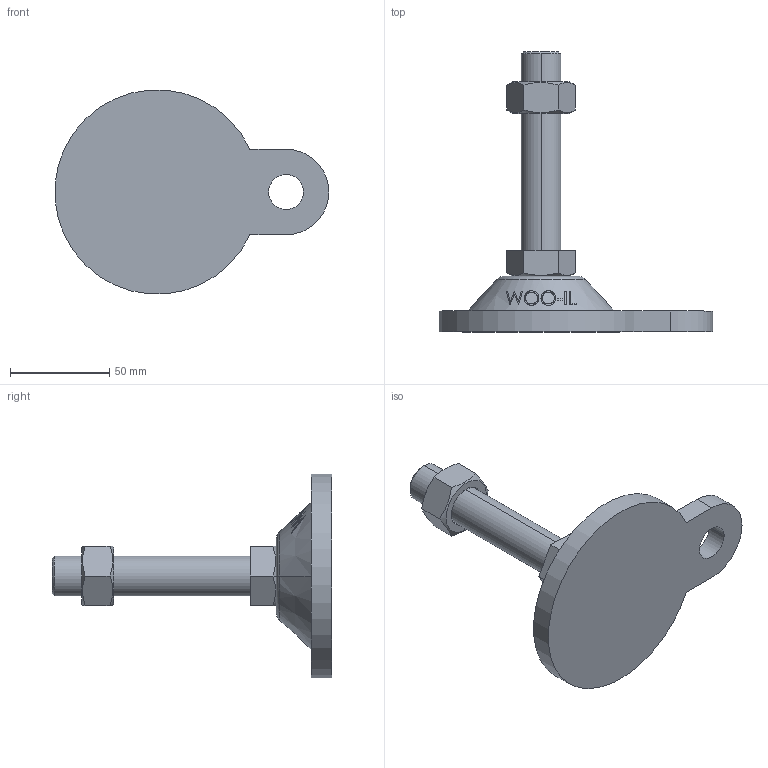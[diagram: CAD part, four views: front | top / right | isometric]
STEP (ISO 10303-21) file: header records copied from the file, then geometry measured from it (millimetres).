
FILE_DESCRIPTION (( 'STEP AP214' ), '1' );
FILE_NAME ('ARB103-M20-100.step', '2021-03-25T00:41:10', ( '' ), ( '' ), 'SwSTEP 2.0', 'SolidWorks 2019', '' );
FILE_SCHEMA (( 'AUTOMOTIVE_DESIGN' ));
Length unit declared in the file: millimetre
Products named in the file (2): ARB103-M20-100
Bounding box: 137.8 x 141 x 102.64 mm (x, y, z)
Volume: 195140.9 mm3; surface area: 37433.9 mm2
Topology: 3 solids, 3 shells, 97 faces, 233 edges, 152 vertices
Faces by surface type: plane 49, cone 22, bspline 16, cylinder 8, torus 2
Entity records: 4456 total; most frequent: CARTESIAN_POINT 2274, ORIENTED_EDGE 466, DIRECTION 375, EDGE_CURVE 233, VERTEX_POINT 152, AXIS2_PLACEMENT_3D 143, EDGE_LOOP 111, ADVANCED_FACE 97
